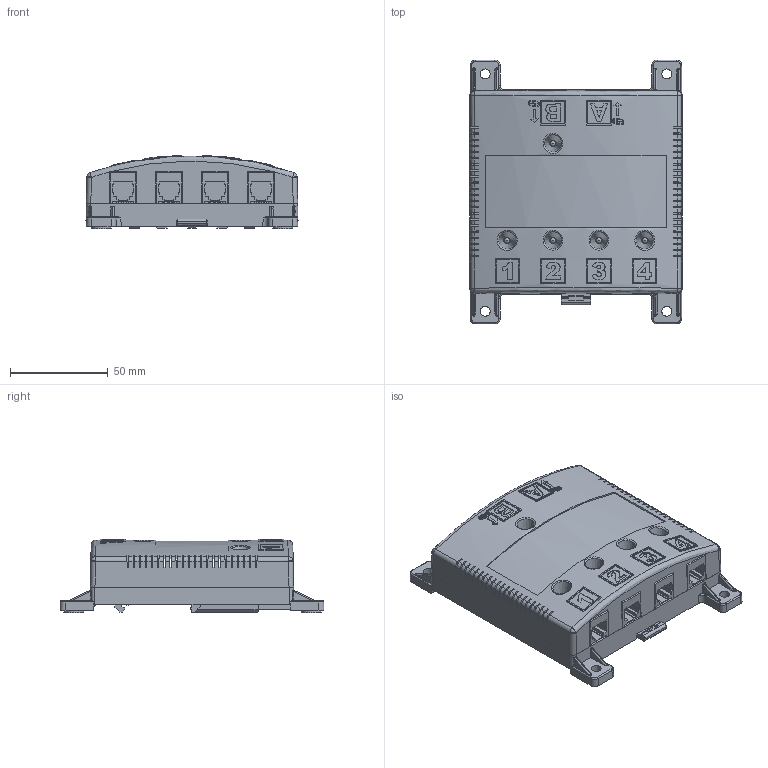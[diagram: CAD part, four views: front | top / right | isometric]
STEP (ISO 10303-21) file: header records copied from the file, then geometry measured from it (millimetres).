
FILE_DESCRIPTION(/* description */ ('Unknown'),/* implementation_level */ '2;1');
FILE_NAME(/* name */ 'MeterHub public',/* time_stamp */ '2017-11-20T10:49:09-05:00',/* author */ ('Unknown'),/* organization */ ('Unknown'),/* preprocessor_version */ 'ST-DEVELOPER v16.7',/* originating_system */ 'DEX',/* authorisation */ $);
FILE_SCHEMA (('AUTOMOTIVE_DESIGN {1 0 10303 214 3 1 1}'));
Length unit declared in the file: millimetre
Products named in the file (8): MH3_PUBLIC; MH-base0.4_public; MH-pcb3; RJ11-right_angle; T1 LED_roundlegs_.22long; MH-cover0.6_public; Module-din_tab
Assembly tree (16 placements, depth 3):
  MH3_PUBLIC
    MH-base0.4_public
    MH-pcb3
      MH-pcb3
      RJ11-right_angle  x6
      T1 LED_roundlegs_.22long  x5
    MH-cover0.6_public
    Module-din_tab
Bounding box: 108.33 x 134.87 x 37.5 mm (x, y, z)
Volume: 105852.6 mm3; surface area: 112268 mm2
Topology: 15 solids, 15 shells, 1430 faces, 4025 edges, 2645 vertices
Faces by surface type: plane 907, cylinder 342, bspline 153, cone 23, torus 5
Full cylindrical faces by diameter (mm): 0.508 x10, 0.559 x36, 0.762 x10, 2.87 x5, 2.921 x12, 2.972 x5, 3.175 x5, 3.302 x12, 3.81 x4, 5.08 x4, 10.16 x4
Entity records: 45616 total; most frequent: CARTESIAN_POINT 16890, ORIENTED_EDGE 6384, DIRECTION 5210, EDGE_CURVE 3192, VERTEX_POINT 2134, AXIS2_PLACEMENT_3D 1741, LINE 1728, VECTOR 1728
